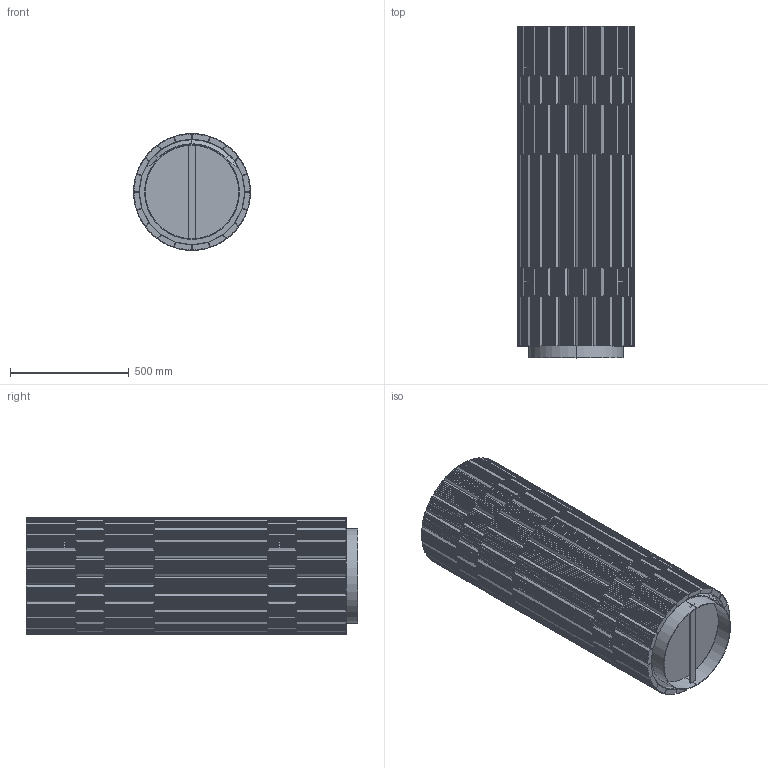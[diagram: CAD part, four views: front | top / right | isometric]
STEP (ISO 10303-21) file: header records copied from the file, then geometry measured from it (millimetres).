
FILE_DESCRIPTION (( 'STEP AP203' ), '1' );
FILE_NAME ('REPETA 04 HIGH CUPBOARD.STEP', '2024-08-09T07:35:13', ( '' ), ( '' ), 'SwSTEP 2.0', 'SolidWorks 2024', '' );
FILE_SCHEMA (( 'CONFIG_CONTROL_DESIGN' ));
Products named in the file (2): REPETA 04 HIGH CUPBOARD; Group1^REPETA 04 HIGH CUPBOARD
Assembly tree (1 placements, depth 2):
  REPETA 04 HIGH CUPBOARD
    Group1^REPETA 04 HIGH CUPBOARD
Bounding box: 493.57 x 1400 x 493.57 mm (x, y, z)
Volume: 61930393.7 mm3; surface area: 7510180.4 mm2
Topology: 126 solids, 126 shells, 7488 faces, 19342 edges, 12110 vertices
Faces by surface type: plane 7447, cylinder 21, cone 15, bspline 5
Entity records: 220953 total; most frequent: CARTESIAN_POINT 39884, ORIENTED_EDGE 38684, DIRECTION 34371, EDGE_CURVE 19342, LINE 19257, VECTOR 19257, VERTEX_POINT 12110, AXIS2_PLACEMENT_3D 7557
